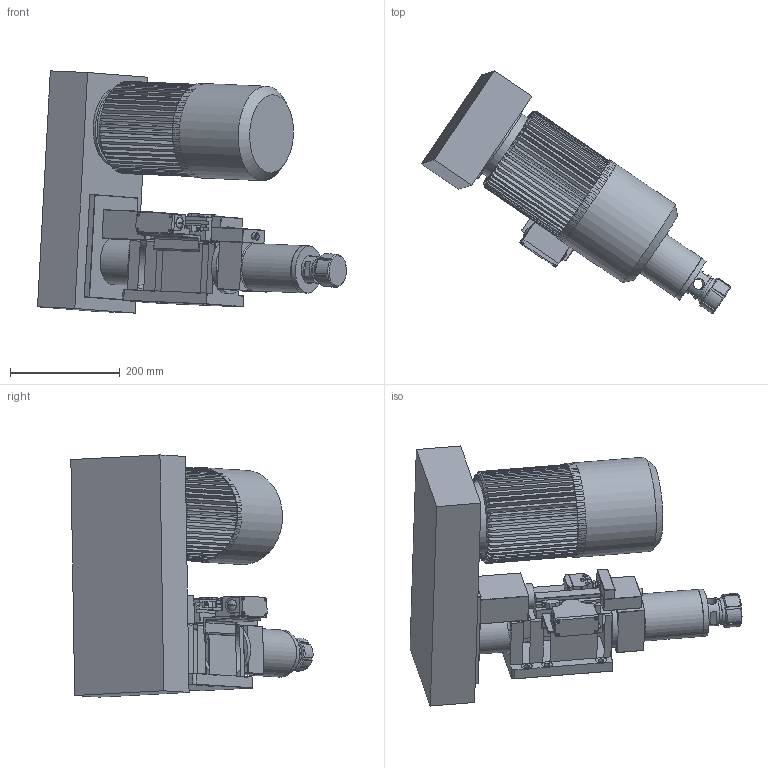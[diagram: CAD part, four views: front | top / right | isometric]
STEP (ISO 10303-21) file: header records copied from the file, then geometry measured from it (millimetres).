
FILE_DESCRIPTION((''),'2;1');
FILE_NAME('C:\VaultWork\Zeichnungen\Maßblätter\Gewindemaschinen\G16-50\B4048-1-1 Maßblatt G16-50 U-Laterne und Spannzangenaufnahme.stp','2009-07-22T12:18:10',('Test'),(''),'Autodesk Inventor 2008','Autodesk Inventor 2008','');
FILE_SCHEMA(('AUTOMOTIVE_DESIGN { 1 0 10303 214 1 1 1 1 }'));
Length unit declared in the file: millimetre
Products named in the file (1): B4048-1-1 Maßblatt G16-50 U-Laterne und Spannzangenaufnahme
Bounding box: 562.22 x 440.98 x 440.82 mm (x, y, z)
Volume: 19024540.5 mm3; surface area: 998494.7 mm2
Topology: 7 solids, 7 shells, 1102 faces, 2857 edges, 1798 vertices
Faces by surface type: plane 726, cylinder 197, cone 118, bspline 39, torus 18, sphere 4
Full cylindrical faces by diameter (mm): 3.8 x2, 4 x2, 4.3 x2, 4.917 x2, 5.9 x2, 5.97 x1, 6 x3, 6.6 x2, 7.323 x1, 8 x6, 9.98 x2, 10 x2, 11.4 x1, 13 x1, 16 x1, 20 x3, 43 x1, 45 x1, 48 x1, 50 x1, 86 x2, 130 x1, 140 x1, 172 x1
Entity records: 35404 total; most frequent: CARTESIAN_POINT 8171, ORIENTED_EDGE 5444, DIRECTION 5271, EDGE_CURVE 2722, VECTOR 1837, LINE 1837, VERTEX_POINT 1757, AXIS2_PLACEMENT_3D 1717
